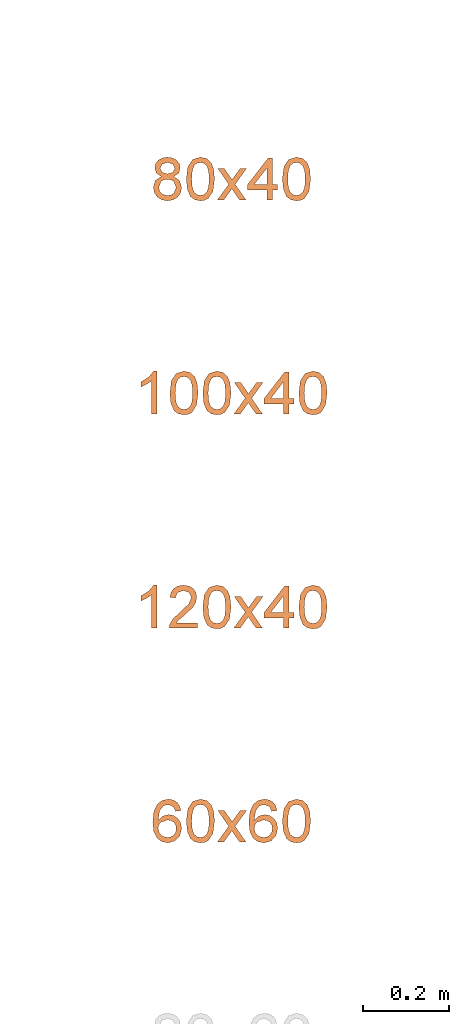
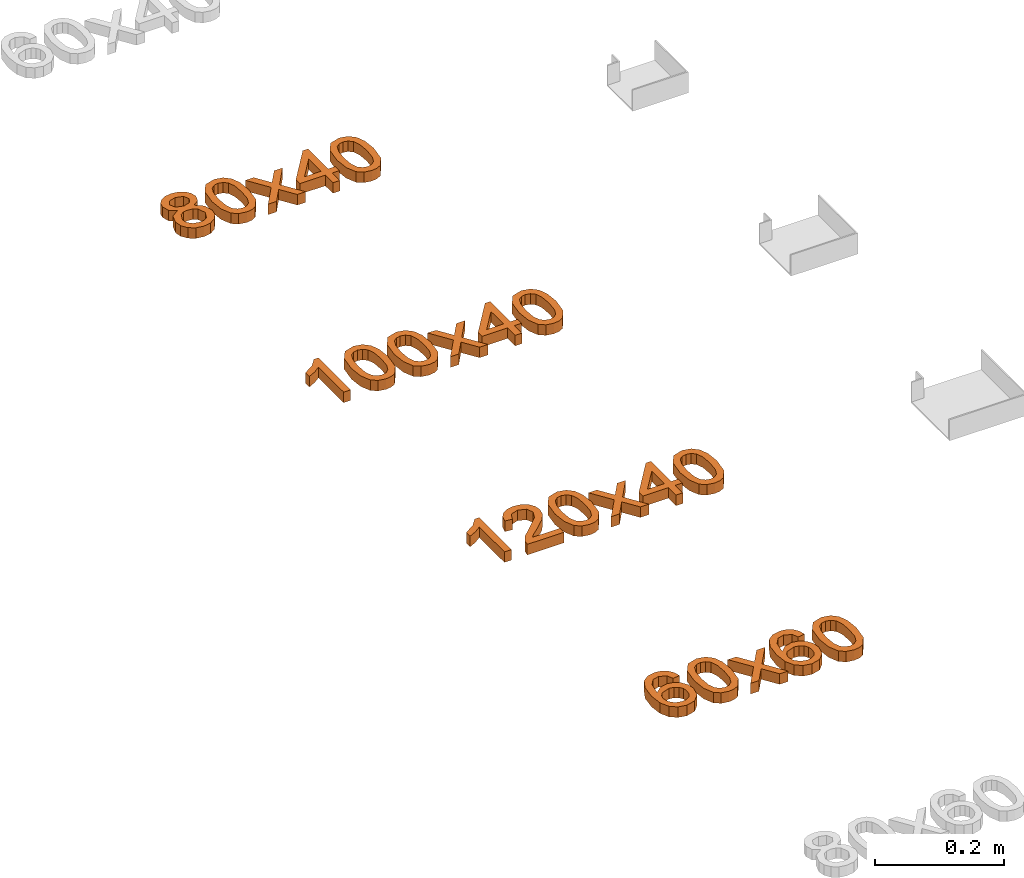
# One storey, part 47 of 71: 4 proxies.
"""IFC2X3 building model written with IfcOpenShell, lengths in millimetres."""

from ifc_helpers import new_model, entity, si_unit, converted_unit, derived_unit, direction, frame, origin, place, context, subcontext, project, spatial, polyline, outline, extrude, element, save


model = new_model("IFC2X3")

# Units and contexts
model_context = context("Model", 3, precision=0.01, world=origin(), true_north=direction((6.12303176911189e-17, 1.0)))
body_context = subcontext(model_context, "Body", "Model", "MODEL_VIEW")
ifc_project = project(units=[si_unit("LENGTHUNIT", "METRE", prefix="MILLI"), si_unit("AREAUNIT", "SQUARE_METRE"), si_unit("VOLUMEUNIT", "CUBIC_METRE"), converted_unit("PLANEANGLEUNIT", "DEGREE", entity("IfcRatioMeasure", 0.0174532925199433), si_unit("PLANEANGLEUNIT", "RADIAN"), dimensions=[0, 0, 0, 0, 0, 0, 0]), si_unit("MASSUNIT", "GRAM", prefix="KILO"), derived_unit("MASSDENSITYUNIT", [(si_unit("MASSUNIT", "GRAM", prefix="KILO"), 1), (si_unit("LENGTHUNIT", "METRE"), -3)]), si_unit("TIMEUNIT", "SECOND"), si_unit("FREQUENCYUNIT", "HERTZ"), si_unit("THERMODYNAMICTEMPERATUREUNIT", "DEGREE_CELSIUS"), derived_unit("THERMALTRANSMITTANCEUNIT", [(si_unit("MASSUNIT", "GRAM", prefix="KILO"), 1), (si_unit("THERMODYNAMICTEMPERATUREUNIT", "KELVIN"), -1), (si_unit("TIMEUNIT", "SECOND"), -3)]), derived_unit("VOLUMETRICFLOWRATEUNIT", [(si_unit("LENGTHUNIT", "METRE"), 3), (si_unit("TIMEUNIT", "SECOND"), -1)]), si_unit("ELECTRICCURRENTUNIT", "AMPERE"), si_unit("ELECTRICVOLTAGEUNIT", "VOLT"), si_unit("POWERUNIT", "WATT"), si_unit("FORCEUNIT", "NEWTON", prefix="KILO"), si_unit("ILLUMINANCEUNIT", "LUX"), si_unit("LUMINOUSFLUXUNIT", "LUMEN"), si_unit("LUMINOUSINTENSITYUNIT", "CANDELA"), derived_unit("USERDEFINED", [(si_unit("MASSUNIT", "GRAM", prefix="KILO"), -1), (si_unit("LENGTHUNIT", "METRE"), -2), (si_unit("TIMEUNIT", "SECOND"), 3), (si_unit("LUMINOUSFLUXUNIT", "LUMEN"), 1)]), derived_unit("LINEARVELOCITYUNIT", [(si_unit("LENGTHUNIT", "METRE"), 1), (si_unit("TIMEUNIT", "SECOND"), -1)]), si_unit("PRESSUREUNIT", "PASCAL"), derived_unit("USERDEFINED", [(si_unit("LENGTHUNIT", "METRE"), -2), (si_unit("MASSUNIT", "GRAM", prefix="KILO"), 1), (si_unit("TIMEUNIT", "SECOND"), -2)])], contexts=[model_context])

# Site, building, storey
site_placement = place(None, origin())
site = spatial("IfcSite", under=ifc_project, at=site_placement, Name="Default", CompositionType="ELEMENT")
building_placement = place(site_placement, origin())
building = spatial("IfcBuilding", under=site, at=building_placement, Name="Наименование здания", CompositionType="ELEMENT")
storey_placement = place(building_placement, origin())
storey = spatial("IfcBuildingStorey", under=building, at=storey_placement, Name="Этаж 01", CompositionType="ELEMENT", Elevation=0.0)

# Proxies
proxy_1_placement = place(storey_placement, origin())
element("IfcBuildingElementProxy", 1, at=proxy_1_placement, inside=storey, Name="Текст модели:100 мм Arial", ObjectType="Текст модели:100 мм Arial", context=body_context, shape_type="SweptSolid", body=[
    extrude(outline(polyline([(10.1224324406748, -11.2212127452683), (26.4477736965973, -11.2212127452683), (39.6861381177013, -0.0909413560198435), (44.632231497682, 11.3078156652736), (44.585641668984, 23.4168603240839), (39.6073830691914, 34.8346290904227), (29.7584701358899, 44.1595584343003), (17.4236057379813, 49.7956565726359), (4.98749274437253, 50.1469317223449), (-6.2004770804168, 45.7236060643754), (-14.7909119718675, 37.0359017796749), (-20.0781666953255, 21.0056847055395), (-14.507062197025, 5.37692494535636), (-28.0684052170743, 5.15563707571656), (-37.7221714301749, -2.60845010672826), (-41.523636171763, -11.9357006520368), (-41.003687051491, -22.2232653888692), (-36.1916154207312, -32.1870777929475), (-27.116712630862, -40.5430713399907), (-16.0503295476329, -45.8123091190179), (-5.18246445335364, -46.5706787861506), (4.38453303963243, -43.2361071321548), (11.5483133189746, -36.2265209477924), (15.2516244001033, -24.082658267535), (10.1224324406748, -11.2212127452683)]), holes=[polyline([(1.34077476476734, -28.9039041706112), (-7.53771017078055, -33.9815875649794), (-20.2415350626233, -30.0339976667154), (-28.5905650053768, -19.6902819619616), (-26.9800933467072, -9.13787919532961), (-18.1108932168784, -3.87648928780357), (-5.45128168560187, -7.82385811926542), (3.15927028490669, -18.240304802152), (1.34077476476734, -28.9039041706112)]), polyline([(29.026296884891, 6.56051660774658), (17.1806533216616, -1.51571690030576), (9.68494123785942, -1.27757268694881), (1.95268767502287, 2.32885586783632), (-4.46267094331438, 8.27886886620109), (-7.64161156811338, 15.3010558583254), (-4.59707955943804, 29.6929468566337), (7.3133365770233, 37.7994665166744), (14.8367372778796, 37.487209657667), (22.6595729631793, 33.8012523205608), (30.3730358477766, 25.5864099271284), (32.5711030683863, 15.5727469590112), (29.026296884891, 6.56051660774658)])]), frame((12991.8607415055, 1588.34577768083, 0.0), z_axis=(0.0, 0.0, 1.0), x_axis=(-0.829266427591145, -0.558853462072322, 0.0)), (0.0, 0.0, 1.0), 20.0),
    extrude(outline(polyline([(-7.02884310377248, -33.3490673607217), (17.532380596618, -33.3490673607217), (35.1984171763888, -27.6137612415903), (43.3439841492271, -18.4876517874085), (47.0516941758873, -5.75150665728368), (46.7162020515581, 4.48638208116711), (43.4465778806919, 13.0955287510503), (27.9444305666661, 25.6659118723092), (-0.314338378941, 32.2325535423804), (-24.0296505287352, 32.367828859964), (-39.4143020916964, 28.026088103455), (-49.7293680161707, 18.9002174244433), (-54.4436715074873, 4.63998875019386), (-50.867658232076, -14.1301059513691), (-35.4058547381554, -26.7333390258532), (-7.02884310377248, -33.3490673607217)]), holes=[polyline([(-5.77428774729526, -20.8548320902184), (-25.0157644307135, -17.3562860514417), (-36.7257089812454, -11.5717922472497), (-41.0962588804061, -4.77599682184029), (-41.966921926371, 3.21464792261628), (-39.2244253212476, 11.2791292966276), (-32.865406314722, 17.2229259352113), (-20.9698370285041, 20.2947501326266), (-1.61768958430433, 19.7433141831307), (17.8514140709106, 16.2707701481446), (28.7803640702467, 10.7141596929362), (33.554698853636, 3.61815959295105), (34.5599568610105, -4.47255337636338), (31.9421230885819, -12.1923199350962), (25.8471825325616, -18.1754808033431), (14.0250679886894, -21.4027476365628), (-5.77428774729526, -20.8548320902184)])]), frame((13069.7029366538, 1582.48792113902, 0.0), z_axis=(0.0, 0.0, 1.0), x_axis=(0.1018515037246, -0.994799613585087, 0.0)), (0.0, 0.0, 1.0), 20.0),
    extrude(outline(polyline([(-34.530221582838, -38.4265006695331), (-19.422534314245, -38.4265006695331), (-0.341721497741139, -12.0616243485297), (2.47870713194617, -16.1328517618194), (17.8561745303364, -38.4265006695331), (32.9638617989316, -38.4265006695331), (7.40832586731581, -1.34399555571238), (33.944880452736, 35.3461020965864), (18.8371931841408, 35.3461020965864), (4.95577923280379, 16.1671874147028), (0.0261604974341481, 9.34910777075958), (-5.66374769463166, 17.6877663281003), (-17.8529044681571, 35.3461020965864), (-32.9605917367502, 35.3461020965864), (-7.6993614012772, -1.34399555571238), (-34.530221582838, -38.4265006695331)])), frame((13142.5445935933, 1575.09124486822, 0.0)), (0.0, 0.0, 1.0), 20.0),
    extrude(outline(polyline([(-1.14154897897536, -36.3868737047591), (11.4154897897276, -36.3868737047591), (11.4154897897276, -12.8424260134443), (23.9725285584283, -12.8424260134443), (23.9725285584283, -0.285387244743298), (11.4154897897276, -0.285387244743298), (11.4154897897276, 62.4998065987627), (1.99771071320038, 62.4998065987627), (-46.660814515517, -0.285387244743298), (-46.660814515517, -12.8424260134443), (-1.14154897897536, -12.8424260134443), (-1.14154897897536, -36.3868737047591)]), holes=[polyline([(-1.14154897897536, -0.285387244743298), (-31.20977071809, -0.285387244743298), (-1.14154897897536, 38.5139005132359), (-1.14154897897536, -0.285387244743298)])]), frame((13225.3085295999, 1573.05161790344, 0.0)), (0.0, 0.0, 1.0), 20.0),
    extrude(outline(polyline([(-7.02884310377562, -33.3490673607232), (17.5323805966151, -33.3490673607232), (35.1984171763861, -27.6137612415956), (43.3439841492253, -18.4876517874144), (47.0516941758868, -5.75150665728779), (46.7162020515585, 4.48638208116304), (43.446577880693, 13.0955287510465), (27.9444305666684, 25.6659118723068), (-0.314338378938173, 32.2325535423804), (-24.0296505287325, 32.367828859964), (-39.4143020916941, 28.0260881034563), (-49.7293680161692, 18.9002174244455), (-54.4436715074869, 4.63998875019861), (-50.8676582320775, -14.1301059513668), (-35.4058547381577, -26.7333390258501), (-7.02884310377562, -33.3490673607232)]), holes=[polyline([(-5.77428774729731, -20.85483209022), (-25.015764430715, -17.3562860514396), (-36.7257089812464, -11.5717922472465), (-41.0962588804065, -4.7759968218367), (-41.9669219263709, 3.21464792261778), (-39.2244253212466, 11.279129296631), (-32.8654063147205, 17.2229259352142), (-20.9698370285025, 20.2947501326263), (-1.61768958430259, 19.7433141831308), (17.851414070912, 16.270770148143), (28.7803640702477, 10.7141596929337), (33.5546988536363, 3.61815959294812), (34.5599568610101, -4.4725533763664), (31.9421230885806, -12.1923199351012), (25.8471825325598, -18.1754808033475), (14.0250679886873, -21.4027476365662), (-5.77428774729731, -20.85483209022)])]), frame((13294.1600046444, 1582.48792113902, 0.0), z_axis=(0.0, 0.0, 1.0), x_axis=(0.101851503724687, -0.994799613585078, 0.0)), (0.0, 0.0, 1.0), 20.0),
])
proxy_2_placement = place(storey_placement, origin())
element("IfcBuildingElementProxy", 2, at=proxy_2_placement, inside=storey, Name="Текст модели:100 мм Arial", ObjectType="Текст модели:100 мм Arial", context=body_context, shape_type="SweptSolid", body=[
    extrude(outline(polyline([(-63.8793021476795, -16.918484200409), (36.5770080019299, -16.918484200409), (36.5770080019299, -8.825080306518), (23.2106288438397, 2.34626961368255), (11.4629304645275, 20.7526321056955), (-0.407395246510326, 20.7526321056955), (5.9324378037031, 7.53340574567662), (14.4059864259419, -4.36144543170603), (-63.8793021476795, -4.36144543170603), (-63.8793021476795, -16.918484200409)])), frame((12950.6140165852, 1100.54404634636, 0.0), z_axis=(0.0, 0.0, 1.0), x_axis=(0.0, 1.0, 0.0)), (0.0, 0.0, 1.0), 20.0),
    extrude(outline(polyline([(-7.02884310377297, -33.3490673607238), (17.5323805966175, -33.3490673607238), (35.1984171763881, -27.6137612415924), (43.3439841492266, -18.4876517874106), (47.0516941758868, -5.75150665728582), (46.7162020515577, 4.48638208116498), (43.4465778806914, 13.0955287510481), (27.9444305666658, 25.665911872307), (-0.31433837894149, 32.2325535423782), (-24.0296505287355, 32.3678288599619), (-39.414302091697, 28.0260881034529), (-49.729368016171, 18.9002174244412), (-54.4436715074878, 4.63998875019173), (-50.8676582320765, -14.1301059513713), (-35.4058547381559, -26.7333390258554), (-7.02884310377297, -33.3490673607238)]), holes=[polyline([(-5.77428774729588, -20.8548320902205), (-25.015764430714, -17.3562860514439), (-36.725708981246, -11.5717922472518), (-41.0962588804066, -4.77599682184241), (-41.9669219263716, 3.21464792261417), (-39.2244253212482, 11.2791292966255), (-32.8654063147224, 17.2229259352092), (-20.9698370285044, 20.2947501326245), (-1.61768958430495, 19.7433141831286), (17.8514140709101, 16.2707701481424), (28.7803640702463, 10.7141596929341), (33.5546988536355, 3.61815959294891), (34.5599568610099, -4.4725533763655), (31.9421230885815, -12.1923199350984), (25.8471825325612, -18.1754808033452), (14.0250679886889, -21.4027476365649), (-5.77428774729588, -20.8548320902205)])]), frame((13031.2470054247, 1082.48792113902, 0.0), z_axis=(0.0, 0.0, 1.0), x_axis=(0.1018515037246, -0.994799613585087, 0.0)), (0.0, 0.0, 1.0), 20.0),
    extrude(outline(polyline([(-7.02884310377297, -33.3490673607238), (17.5323805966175, -33.3490673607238), (35.1984171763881, -27.6137612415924), (43.3439841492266, -18.4876517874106), (47.0516941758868, -5.75150665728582), (46.7162020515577, 4.48638208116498), (43.4465778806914, 13.0955287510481), (27.9444305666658, 25.665911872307), (-0.31433837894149, 32.2325535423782), (-24.0296505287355, 32.3678288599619), (-39.414302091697, 28.0260881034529), (-49.729368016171, 18.9002174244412), (-54.4436715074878, 4.63998875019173), (-50.8676582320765, -14.1301059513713), (-35.4058547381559, -26.7333390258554), (-7.02884310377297, -33.3490673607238)]), holes=[polyline([(-5.77428774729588, -20.8548320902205), (-25.015764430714, -17.3562860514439), (-36.725708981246, -11.5717922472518), (-41.0962588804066, -4.77599682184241), (-41.9669219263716, 3.21464792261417), (-39.2244253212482, 11.2791292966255), (-32.8654063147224, 17.2229259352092), (-20.9698370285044, 20.2947501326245), (-1.61768958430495, 19.7433141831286), (17.8514140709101, 16.2707701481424), (28.7803640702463, 10.7141596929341), (33.5546988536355, 3.61815959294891), (34.5599568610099, -4.4725533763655), (31.9421230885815, -12.1923199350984), (25.8471825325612, -18.1754808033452), (14.0250679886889, -21.4027476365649), (-5.77428774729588, -20.8548320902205)])]), frame((13108.158867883, 1082.48792113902, 0.0), z_axis=(0.0, 0.0, 1.0), x_axis=(0.1018515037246, -0.994799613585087, 0.0)), (0.0, 0.0, 1.0), 20.0),
    extrude(outline(polyline([(-34.5302215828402, -38.4265006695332), (-19.4225343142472, -38.4265006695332), (-0.341721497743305, -12.0616243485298), (2.478707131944, -16.1328517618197), (17.8561745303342, -38.4265006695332), (32.9638617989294, -38.4265006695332), (7.40832586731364, -1.34399555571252), (33.9448804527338, 35.3461020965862), (18.8371931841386, 35.3461020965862), (4.95577923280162, 16.1671874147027), (0.0261604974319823, 9.34910777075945), (-5.66374769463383, 17.6877663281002), (-17.8529044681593, 35.3461020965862), (-32.9605917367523, 35.3461020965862), (-7.69936140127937, -1.34399555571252), (-34.5302215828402, -38.4265006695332)])), frame((13181.0005248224, 1075.09124486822, 0.0)), (0.0, 0.0, 1.0), 20.0),
    extrude(outline(polyline([(-1.14154897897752, -36.3868737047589), (11.4154897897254, -36.3868737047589), (11.4154897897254, -12.8424260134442), (23.9725285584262, -12.8424260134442), (23.9725285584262, -0.285387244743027), (11.4154897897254, -0.285387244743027), (11.4154897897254, 62.4998065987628), (1.99771071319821, 62.4998065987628), (-46.6608145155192, -0.285387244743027), (-46.6608145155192, -12.8424260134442), (-1.14154897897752, -12.8424260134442), (-1.14154897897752, -36.3868737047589)]), holes=[polyline([(-1.14154897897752, -0.285387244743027), (-31.2097707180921, -0.285387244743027), (-1.14154897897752, 38.5139005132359), (-1.14154897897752, -0.285387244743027)])]), frame((13263.764460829, 1073.05161790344, 0.0)), (0.0, 0.0, 1.0), 20.0),
    extrude(outline(polyline([(-7.02884310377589, -33.3490673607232), (17.5323805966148, -33.3490673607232), (35.1984171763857, -27.6137612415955), (43.343984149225, -18.4876517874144), (47.0516941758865, -5.75150665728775), (46.7162020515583, 4.48638208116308), (43.4465778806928, 13.0955287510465), (27.9444305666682, 25.6659118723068), (-0.314338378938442, 32.2325535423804), (-24.0296505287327, 32.367828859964), (-39.4143020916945, 28.0260881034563), (-49.7293680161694, 18.9002174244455), (-54.4436715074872, 4.63998875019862), (-50.8676582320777, -14.1301059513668), (-35.405854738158, -26.7333390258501), (-7.02884310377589, -33.3490673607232)]), holes=[polyline([(-5.77428774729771, -20.85483209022), (-25.0157644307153, -17.3562860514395), (-36.7257089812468, -11.5717922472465), (-41.0962588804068, -4.77599682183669), (-41.9669219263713, 3.21464792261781), (-39.224425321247, 11.2791292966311), (-32.8654063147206, 17.2229259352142), (-20.9698370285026, 20.2947501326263), (-1.617689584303, 19.7433141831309), (17.8514140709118, 16.270770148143), (28.7803640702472, 10.7141596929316), (33.554698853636, 3.61815959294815), (34.5599568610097, -4.47255337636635), (31.9421230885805, -12.1923199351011), (25.8471825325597, -18.1754808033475), (14.0250679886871, -21.4027476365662), (-5.77428774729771, -20.85483209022)])]), frame((13332.6159358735, 1082.48792113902, 0.0), z_axis=(0.0, 0.0, 1.0), x_axis=(0.101851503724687, -0.994799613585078, 0.0)), (0.0, 0.0, 1.0), 20.0),
])
proxy_3_placement = place(storey_placement, origin())
element("IfcBuildingElementProxy", 3, at=proxy_3_placement, inside=storey, Name="Текст модели:100 мм Arial", ObjectType="Текст модели:100 мм Arial", context=body_context, shape_type="SweptSolid", body=[
    extrude(outline(polyline([(-63.8793021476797, -16.918484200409), (36.5770080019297, -16.918484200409), (36.5770080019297, -8.825080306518), (23.2106288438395, 2.34626961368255), (11.4629304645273, 20.7526321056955), (-0.407395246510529, 20.7526321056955), (5.9324378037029, 7.53340574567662), (14.4059864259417, -4.36144543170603), (-63.8793021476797, -4.36144543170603), (-63.8793021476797, -16.918484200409)])), frame((12950.6140165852, 600.544046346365, 0.0), z_axis=(0.0, 0.0, 1.0), x_axis=(0.0, 1.0, 0.0)), (0.0, 0.0, 1.0), 20.0),
    extrude(outline(polyline([(-32.385878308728, -45.1669477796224), (-32.385878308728, -57.7239865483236), (33.5385752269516, -57.7239865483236), (32.1896745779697, -49.0664969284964), (24.5622545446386, -35.736905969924), (8.84143061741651, -21.1810416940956), (-12.8390816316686, -0.260818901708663), (-18.2592096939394, 13.9639515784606), (-13.1456499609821, 25.4786580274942), (0.208466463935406, 30.1752848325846), (14.1266686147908, 25.5890226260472), (19.4119066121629, 12.9093565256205), (31.9689453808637, 14.4789863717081), (28.9247218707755, 26.6252235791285), (22.3426998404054, 35.4973110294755), (12.5662358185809, 40.9235704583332), (-0.0613136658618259, 42.7323236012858), (-12.7808336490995, 40.721235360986), (-22.5389035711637, 34.6879706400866), (-28.746912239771, 25.6748617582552), (-30.8162484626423, 14.7242410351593), (-28.5844310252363, 2.81712712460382), (-21.1654774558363, -9.49465698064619), (-3.17604789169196, -26.6992716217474), (11.2694517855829, -38.7780637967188), (16.9348345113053, -45.1669477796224), (-32.385878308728, -45.1669477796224)])), frame((13029.3244132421, 594.388730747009, 0.0), z_axis=(0.0, 0.0, -1.0), x_axis=(-1.0, 0.0, 0.0)), (0.0, 0.0, -1.0), 20.0),
    extrude(outline(polyline([(-7.02884310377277, -33.3490673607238), (17.5323805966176, -33.3490673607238), (35.1984171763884, -27.6137612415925), (43.3439841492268, -18.4876517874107), (47.051694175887, -5.75150665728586), (46.7162020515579, 4.48638208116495), (43.4465778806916, 13.0955287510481), (27.9444305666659, 25.665911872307), (-0.314338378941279, 32.2325535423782), (-24.0296505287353, 32.3678288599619), (-39.4143020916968, 28.0260881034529), (-49.7293680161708, 18.9002174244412), (-54.4436715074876, 4.63998875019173), (-50.8676582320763, -14.1301059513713), (-35.4058547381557, -26.7333390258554), (-7.02884310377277, -33.3490673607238)]), holes=[polyline([(-5.77428774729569, -20.8548320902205), (-25.0157644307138, -17.3562860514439), (-36.7257089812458, -11.5717922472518), (-41.0962588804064, -4.77599682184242), (-41.9669219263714, 3.21464792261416), (-39.224425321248, 11.2791292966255), (-32.8654063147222, 17.2229259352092), (-20.9698370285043, 20.2947501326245), (-1.61768958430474, 19.7433141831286), (17.8514140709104, 16.2707701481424), (28.7803640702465, 10.7141596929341), (33.5546988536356, 3.61815959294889), (34.5599568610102, -4.47255337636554), (31.9421230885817, -12.1923199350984), (25.8471825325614, -18.1754808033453), (14.0250679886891, -21.402747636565), (-5.77428774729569, -20.8548320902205)])]), frame((13108.158867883, 582.48792113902, 0.0), z_axis=(0.0, 0.0, 1.0), x_axis=(0.1018515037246, -0.994799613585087, 0.0)), (0.0, 0.0, 1.0), 20.0),
    extrude(outline(polyline([(-34.5302215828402, -38.4265006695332), (-19.4225343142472, -38.4265006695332), (-0.341721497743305, -12.0616243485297), (2.478707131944, -16.1328517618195), (17.8561745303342, -38.4265006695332), (32.9638617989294, -38.4265006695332), (7.40832586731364, -1.34399555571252), (33.9448804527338, 35.3461020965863), (18.8371931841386, 35.3461020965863), (4.95577923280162, 16.1671874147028), (0.0261604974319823, 9.34910777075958), (-5.66374769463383, 17.6877663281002), (-17.8529044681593, 35.3461020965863), (-32.9605917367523, 35.3461020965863), (-7.69936140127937, -1.34399555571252), (-34.5302215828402, -38.4265006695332)])), frame((13181.0005248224, 575.091244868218, 0.0)), (0.0, 0.0, 1.0), 20.0),
    extrude(outline(polyline([(-1.14154897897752, -36.3868737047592), (11.4154897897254, -36.3868737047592), (11.4154897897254, -12.8424260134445), (23.9725285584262, -12.8424260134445), (23.9725285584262, -0.285387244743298), (11.4154897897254, -0.285387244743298), (11.4154897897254, 62.4998065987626), (1.99771071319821, 62.4998065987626), (-46.6608145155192, -0.285387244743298), (-46.6608145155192, -12.8424260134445), (-1.14154897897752, -12.8424260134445), (-1.14154897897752, -36.3868737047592)]), holes=[polyline([(-1.14154897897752, -0.285387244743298), (-31.2097707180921, -0.285387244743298), (-1.14154897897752, 38.5139005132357), (-1.14154897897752, -0.285387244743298)])]), frame((13263.764460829, 573.051617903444, 0.0)), (0.0, 0.0, 1.0), 20.0),
    extrude(outline(polyline([(-7.0288431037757, -33.3490673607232), (17.5323805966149, -33.3490673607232), (35.198417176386, -27.6137612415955), (43.3439841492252, -18.4876517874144), (47.0516941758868, -5.75150665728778), (46.7162020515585, 4.48638208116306), (43.446577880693, 13.0955287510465), (27.9444305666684, 25.6659118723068), (-0.31433837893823, 32.2325535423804), (-24.0296505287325, 32.3678288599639), (-39.4143020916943, 28.0260881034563), (-49.7293680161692, 18.9002174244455), (-54.443671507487, 4.6399887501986), (-50.8676582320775, -14.1301059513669), (-35.4058547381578, -26.7333390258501), (-7.0288431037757, -33.3490673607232)]), holes=[polyline([(-5.77428774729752, -20.85483209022), (-25.0157644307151, -17.3562860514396), (-36.7257089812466, -11.5717922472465), (-41.0962588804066, -4.77599682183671), (-41.9669219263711, 3.21464792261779), (-39.2244253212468, 11.2791292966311), (-32.8654063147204, 17.2229259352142), (-20.9698370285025, 20.2947501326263), (-1.61768958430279, 19.7433141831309), (17.851414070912, 16.270770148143), (28.7803640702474, 10.7141596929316), (33.5546988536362, 3.61815959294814), (34.55995686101, -4.47255337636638), (31.9421230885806, -12.1923199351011), (25.8471825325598, -18.1754808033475), (14.0250679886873, -21.4027476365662), (-5.77428774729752, -20.85483209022)])]), frame((13332.6159358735, 582.48792113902, 0.0), z_axis=(0.0, 0.0, 1.0), x_axis=(0.101851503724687, -0.994799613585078, 0.0)), (0.0, 0.0, 1.0), 20.0),
])
proxy_4_placement = place(storey_placement, origin())
element("IfcBuildingElementProxy", 4, at=proxy_4_placement, inside=storey, Name="Текст модели:100 мм Arial", ObjectType="Текст модели:100 мм Arial", context=body_context, shape_type="SweptSolid", body=[
    extrude(outline(polyline([(6.79275401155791, -32.5027761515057), (18.3659045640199, -32.5027761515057), (28.1525204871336, -28.8011371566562), (35.6312934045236, -21.7178704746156), (40.280914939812, -11.5729874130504), (41.4130789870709, 3.236670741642), (36.1391243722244, 16.3729018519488), (21.8599739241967, 28.8803269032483), (-1.50836821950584, 38.2054593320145), (-23.6059131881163, 41.7609274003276), (-39.9814227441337, 38.5965283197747), (-51.1650797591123, 29.9216784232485), (-57.6870671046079, 16.9457940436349), (-57.9805556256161, -0.0494879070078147), (-49.2081886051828, -14.3141019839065), (-33.616785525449, -22.9350568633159), (-20.6265742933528, -24.2502330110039), (-8.97800352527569, -20.6254922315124), (0.0919027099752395, -13.0350962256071), (5.34612034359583, -2.45330669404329), (5.85483161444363, 11.6447254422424), (-0.843339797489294, 24.991063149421), (19.7707676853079, 15.5765036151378), (28.4840991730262, 4.26766164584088), (28.3893512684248, -7.46374532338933), (19.9956250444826, -18.1936336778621), (8.63303585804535, -19.9825396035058), (6.79275401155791, -32.5027761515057)]), holes=[polyline([(-18.758671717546, 29.9549594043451), (-11.6328110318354, 26.3613362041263), (-6.94154076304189, 20.2038317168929), (-5.85783236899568, 4.13761066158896), (-9.48331864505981, -3.95286412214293), (-15.1077394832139, -9.26901644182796), (-22.3091633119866, -11.5969098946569), (-30.6656585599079, -10.7226080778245), (-38.6094491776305, -7.06141592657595), (-43.8637090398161, -1.22509865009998), (-46.1835287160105, 6.17768396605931), (-45.323998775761, 14.5382721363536), (-39.6901171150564, 24.7221971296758), (-30.0168134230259, 30.0585493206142), (-18.758671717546, 29.9549594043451)])]), frame((12993.7454554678, 95.2124824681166, 0.0), z_axis=(0.0, 0.0, 1.0), x_axis=(-0.267015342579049, 0.963692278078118, 0.0)), (0.0, 0.0, 1.0), 20.0),
    extrude(outline(polyline([(-7.0288431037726, -33.3490673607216), (17.5323805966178, -33.3490673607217), (35.1984171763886, -27.6137612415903), (43.3439841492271, -18.4876517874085), (47.0516941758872, -5.7515066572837), (46.7162020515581, 4.4863820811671), (43.4465778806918, 13.0955287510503), (27.9444305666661, 25.6659118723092), (-0.314338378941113, 32.2325535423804), (-24.0296505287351, 32.367828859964), (-39.4143020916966, 28.026088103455), (-49.7293680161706, 18.9002174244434), (-54.4436715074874, 4.63998875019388), (-50.8676582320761, -14.1301059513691), (-35.4058547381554, -26.7333390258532), (-7.0288431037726, -33.3490673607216)]), holes=[polyline([(-5.77428774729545, -20.8548320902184), (-25.0157644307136, -17.3562860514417), (-36.7257089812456, -11.5717922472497), (-41.0962588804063, -4.77599682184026), (-41.9669219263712, 3.21464792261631), (-39.2244253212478, 11.2791292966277), (-32.865406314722, 17.2229259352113), (-20.9698370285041, 20.2947501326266), (-1.61768958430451, 19.7433141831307), (17.8514140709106, 16.2707701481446), (28.7803640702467, 10.7141596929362), (33.5546988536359, 3.61815959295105), (34.5599568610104, -4.47255337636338), (31.9421230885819, -12.1923199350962), (25.8471825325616, -18.1754808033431), (14.0250679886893, -21.4027476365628), (-5.77428774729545, -20.8548320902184)])]), frame((13069.7029366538, 82.4879211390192, 0.0), z_axis=(0.0, 0.0, 1.0), x_axis=(0.1018515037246, -0.994799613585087, 0.0)), (0.0, 0.0, 1.0), 20.0),
    extrude(outline(polyline([(-34.530221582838, -38.4265006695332), (-19.422534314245, -38.4265006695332), (-0.341721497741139, -12.0616243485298), (2.47870713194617, -16.1328517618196), (17.8561745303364, -38.4265006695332), (32.9638617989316, -38.4265006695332), (7.40832586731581, -1.34399555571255), (33.944880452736, 35.3461020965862), (18.8371931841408, 35.3461020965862), (4.95577923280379, 16.1671874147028), (0.0261604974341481, 9.34910777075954), (-5.66374769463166, 17.6877663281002), (-17.8529044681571, 35.3461020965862), (-32.9605917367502, 35.3461020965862), (-7.6993614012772, -1.34399555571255), (-34.530221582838, -38.4265006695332)])), frame((13142.5445935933, 75.0912448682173, 0.0)), (0.0, 0.0, 1.0), 20.0),
    extrude(outline(polyline([(6.79275401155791, -32.5027761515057), (18.3659045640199, -32.5027761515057), (28.1525204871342, -28.8011371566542), (35.6312934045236, -21.7178704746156), (40.2809149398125, -11.5729874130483), (41.4130789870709, 3.23667074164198), (36.139124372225, 16.3729018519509), (21.8599739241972, 28.8803269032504), (-1.50836821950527, 38.2054593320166), (-23.6059131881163, 41.7609274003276), (-39.9814227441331, 38.5965283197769), (-51.1650797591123, 29.9216784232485), (-57.6870671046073, 16.945794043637), (-57.9805556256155, -0.0494879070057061), (-49.2081886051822, -14.3141019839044), (-33.616785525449, -22.9350568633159), (-20.6265742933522, -24.2502330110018), (-8.97800352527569, -20.6254922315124), (0.0919027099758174, -13.035096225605), (5.34612034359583, -2.45330669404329), (5.85483161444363, 11.6447254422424), (-0.843339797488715, 24.9910631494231), (19.7707676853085, 15.5765036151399), (28.4840991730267, 4.26766164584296), (28.3893512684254, -7.46374532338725), (19.9956250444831, -18.19363367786), (8.63303585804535, -19.9825396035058), (6.79275401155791, -32.5027761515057)]), holes=[polyline([(-18.7586717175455, 29.9549594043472), (-11.6328110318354, 26.3613362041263), (-6.94154076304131, 20.203831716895), (-5.85783236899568, 4.13761066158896), (-9.48331864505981, -3.95286412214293), (-15.1077394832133, -9.26901644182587), (-22.3091633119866, -11.5969098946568), (-30.6656585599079, -10.7226080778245), (-38.60944917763, -7.06141592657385), (-43.8637090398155, -1.22509865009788), (-46.18352871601, 6.17768396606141), (-45.3239987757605, 14.5382721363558), (-39.6901171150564, 24.7221971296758), (-30.0168134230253, 30.0585493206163), (-18.7586717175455, 29.9549594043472)])]), frame((13218.2025234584, 95.2124824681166, 0.0), z_axis=(0.0, 0.0, 1.0), x_axis=(-0.267015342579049, 0.963692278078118, 0.0)), (0.0, 0.0, 1.0), 20.0),
    extrude(outline(polyline([(-7.02884310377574, -33.3490673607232), (17.5323805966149, -33.3490673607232), (35.1984171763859, -27.6137612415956), (43.3439841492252, -18.4876517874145), (47.0516941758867, -5.7515066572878), (46.7162020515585, 4.48638208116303), (43.4465778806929, 13.0955287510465), (27.9444305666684, 25.6659118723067), (-0.314338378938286, 32.2325535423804), (-24.0296505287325, 32.367828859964), (-39.4143020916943, 28.0260881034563), (-49.7293680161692, 18.9002174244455), (-54.443671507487, 4.63998875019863), (-50.8676582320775, -14.1301059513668), (-35.4058547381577, -26.7333390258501), (-7.02884310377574, -33.3490673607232)]), holes=[polyline([(-5.7742877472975, -20.85483209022), (-25.0157644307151, -17.3562860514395), (-36.7257089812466, -11.5717922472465), (-41.0962588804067, -4.77599682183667), (-41.9669219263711, 3.21464792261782), (-39.2244253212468, 11.2791292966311), (-32.8654063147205, 17.2229259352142), (-20.9698370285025, 20.2947501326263), (-1.61768958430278, 19.7433141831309), (17.851414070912, 16.270770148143), (28.7803640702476, 10.7141596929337), (33.5546988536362, 3.61815959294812), (34.55995686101, -4.4725533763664), (31.9421230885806, -12.1923199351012), (25.8471825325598, -18.1754808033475), (14.0250679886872, -21.4027476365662), (-5.7742877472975, -20.85483209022)])]), frame((13294.1600046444, 82.4879211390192, 0.0), z_axis=(0.0, 0.0, 1.0), x_axis=(0.101851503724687, -0.994799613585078, 0.0)), (0.0, 0.0, 1.0), 20.0),
])

save(model, "model.ifc")
